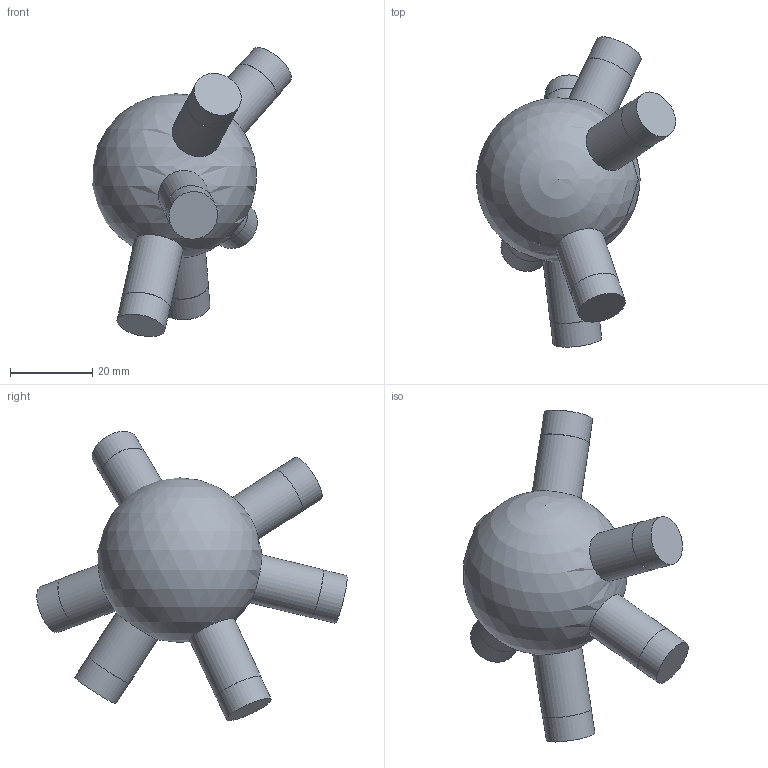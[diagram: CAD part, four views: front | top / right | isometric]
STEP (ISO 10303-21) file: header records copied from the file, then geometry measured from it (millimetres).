
FILE_DESCRIPTION(('Open CASCADE Model'),'2;1');
FILE_NAME('Open CASCADE Shape Model','2026-10-21T12:47:57',('Author'),( 'Open CASCADE'),'Open CASCADE STEP processor 7.9','Open CASCADE 7.9' ,'Unknown');
FILE_SCHEMA(('AUTOMOTIVE_DESIGN { 1 0 10303 214 1 1 1 1 }'));
Length unit declared in the file: millimetre
Products named in the file (1): Open CASCADE STEP translator 7.9 118
Bounding box: 48.39 x 75.4 x 70.26 mm (x, y, z)
Volume: 46626.4 mm3; surface area: 9498.8 mm2
Topology: 1 solids, 1 shells, 25 faces, 39 edges, 26 vertices
Faces by surface type: cylinder 12, plane 12, sphere 1
Full cylindrical faces by diameter (mm): 11.9 x6, 12 x6
Entity records: 1457 total; most frequent: CARTESIAN_POINT 592, DIRECTION 178, ORIENTED_EDGE 72, PCURVE 72, DEFINITIONAL_REPRESENTATION 72, LINE 60, VECTOR 60, AXIS2_PLACEMENT_3D 50
